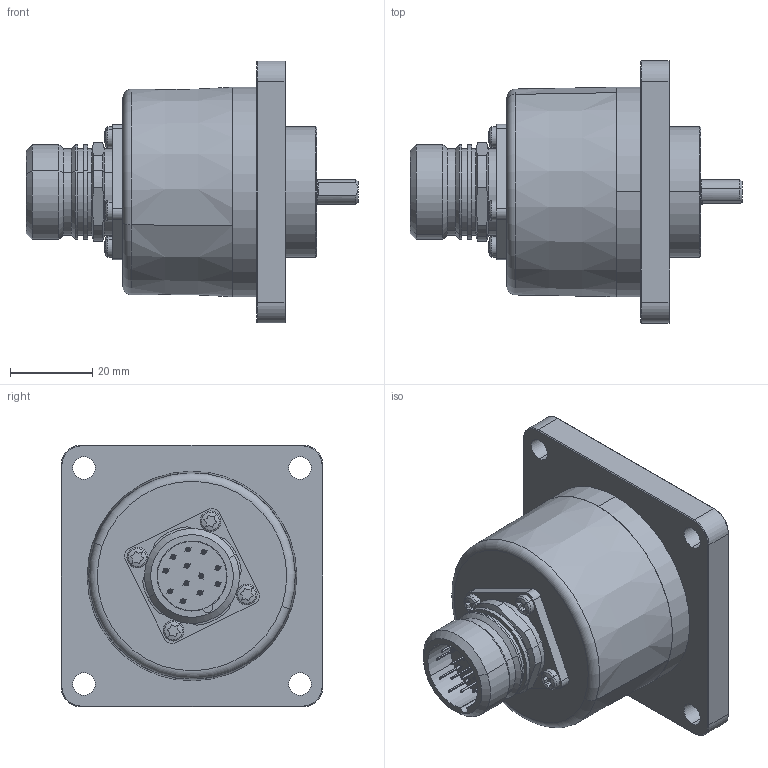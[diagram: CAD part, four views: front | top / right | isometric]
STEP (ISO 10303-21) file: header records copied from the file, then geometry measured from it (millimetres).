
FILE_DESCRIPTION (( 'STEP AP214' ), '1' );
FILE_NAME ('5000.D1X7.XXXX.STEP', '2009-01-14T09:49:22', ( 'admin' ), ( 'Fritz Kübler GmbH' ), 'SwSTEP 2.0', 'SolidWorks 2008', '' );
FILE_SCHEMA (( 'AUTOMOTIVE_DESIGN' ));
Length unit declared in the file: millimetre
Products named in the file (1): 5000.D1X7.XXXX
Bounding box: 80.5 x 63.5 x 63.5 mm (x, y, z)
Volume: 64069.8 mm3; surface area: 40670 mm2
Topology: 22 solids, 25 shells, 883 faces, 1999 edges, 1203 vertices
Faces by surface type: cylinder 355, plane 215, cone 143, torus 99, sphere 59, bspline 12
Entity records: 35408 total; most frequent: CARTESIAN_POINT 5298, DIRECTION 4729, ORIENTED_EDGE 3830, AXIS2_PLACEMENT_3D 2022, EDGE_CURVE 1915, VERTEX_POINT 1173, CIRCLE 1150, EDGE_LOOP 1048
